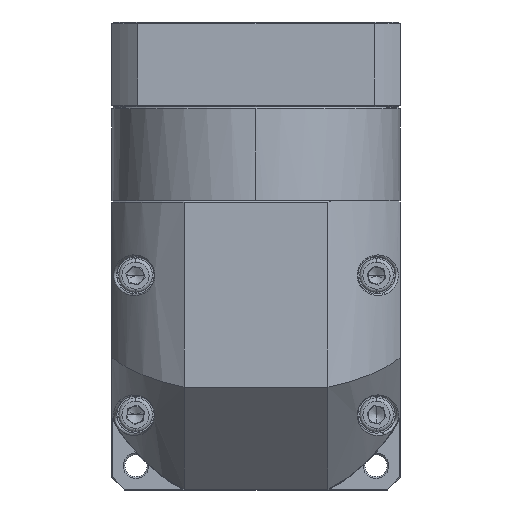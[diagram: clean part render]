
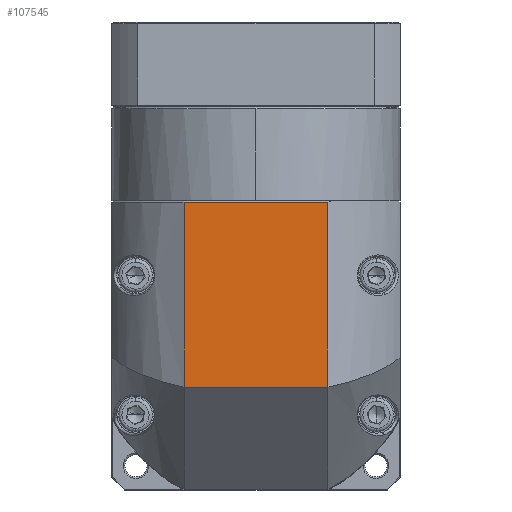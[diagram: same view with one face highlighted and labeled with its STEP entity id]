
A CAD part, top view. The second image highlights one B-rep face of the part: STEP entity #107545.
In plain terms, the highlighted planar face has unit normal (0, 0, 1).
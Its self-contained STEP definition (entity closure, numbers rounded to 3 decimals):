
#508 = DIRECTION ( 'NONE',  ( -1., 0., 0. ) ) ;
#4877 = CARTESIAN_POINT ( 'NONE',  ( -22.217, 7.355, 49.899 ) ) ;
#4912 = DIRECTION ( 'NONE',  ( 0., -1., 0. ) ) ;
#18053 = LINE ( 'NONE', #96841, #86955 ) ;
#20467 = EDGE_CURVE ( 'NONE', #26710, #61342, #114541, .T. ) ;
#21258 = LINE ( 'NONE', #108360, #98696 ) ;
#23564 = EDGE_CURVE ( 'NONE', #61894, #132687, #67114, .T. ) ;
#26710 = VERTEX_POINT ( 'NONE', #82085 ) ;
#35299 = EDGE_CURVE ( 'NONE', #61894, #61342, #18053, .T. ) ;
#35409 = CARTESIAN_POINT ( 'NONE',  ( -43.43, 19.855, 49.899 ) ) ;
#36881 = ORIENTED_EDGE ( 'NONE', *, *, #69661, .F. ) ;
#40582 = VECTOR ( 'NONE', #99483, 1000. ) ;
#44213 = AXIS2_PLACEMENT_3D ( 'NONE', #35409, #46223, #111495 ) ;
#46223 = DIRECTION ( 'NONE',  ( 0., 0., 1. ) ) ;
#53216 = ORIENTED_EDGE ( 'NONE', *, *, #35299, .T. ) ;
#59208 = FACE_OUTER_BOUND ( 'NONE', #72327, .T. ) ;
#61342 = VERTEX_POINT ( 'NONE', #81194 ) ;
#61894 = VERTEX_POINT ( 'NONE', #85605 ) ;
#67077 = CARTESIAN_POINT ( 'NONE',  ( -64.644, -38.145, 49.899 ) ) ;
#67114 = LINE ( 'NONE', #122954, #139328 ) ;
#69365 = ORIENTED_EDGE ( 'NONE', *, *, #20467, .F. ) ;
#69530 = ORIENTED_EDGE ( 'NONE', *, *, #23564, .F. ) ;
#69661 = EDGE_CURVE ( 'NONE', #132687, #26710, #21258, .T. ) ;
#72327 = EDGE_LOOP ( 'NONE', ( #69365, #36881, #69530, #53216 ) ) ;
#81194 = CARTESIAN_POINT ( 'NONE',  ( -64.644, 61.855, 49.899 ) ) ;
#82085 = CARTESIAN_POINT ( 'NONE',  ( -64.644, 7.355, 49.899 ) ) ;
#85605 = CARTESIAN_POINT ( 'NONE',  ( -22.217, 61.855, 49.899 ) ) ;
#86955 = VECTOR ( 'NONE', #508, 1000. ) ;
#96841 = CARTESIAN_POINT ( 'NONE',  ( -43.43, 61.855, 49.899 ) ) ;
#97552 = DIRECTION ( 'NONE',  ( -1., 0., 0. ) ) ;
#98696 = VECTOR ( 'NONE', #97552, 1000. ) ;
#99483 = DIRECTION ( 'NONE',  ( 0., 1., 0. ) ) ;
#101153 = PLANE ( 'NONE',  #44213 ) ;
#107545 = ADVANCED_FACE ( 'NONE', ( #59208 ), #101153, .T. ) ;
#108360 = CARTESIAN_POINT ( 'NONE',  ( -43.43, 7.355, 49.899 ) ) ;
#111495 = DIRECTION ( 'NONE',  ( 0., 1., 0. ) ) ;
#114541 = LINE ( 'NONE', #67077, #40582 ) ;
#122954 = CARTESIAN_POINT ( 'NONE',  ( -22.217, -38.145, 49.899 ) ) ;
#132687 = VERTEX_POINT ( 'NONE', #4877 ) ;
#139328 = VECTOR ( 'NONE', #4912, 1000. ) ;
